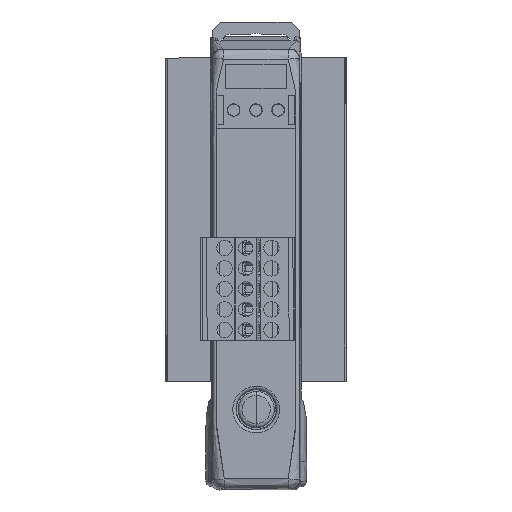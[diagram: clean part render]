
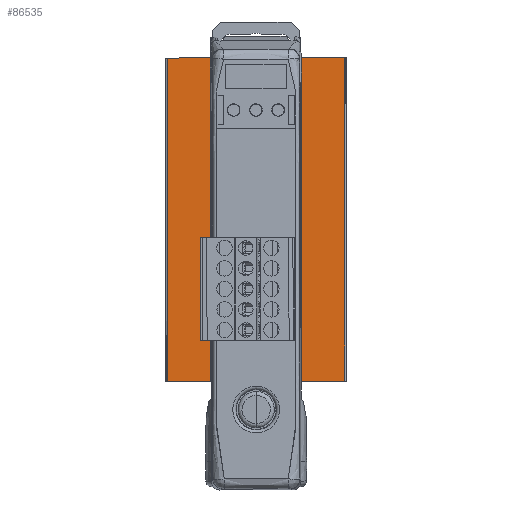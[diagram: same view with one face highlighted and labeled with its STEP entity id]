
A CAD part, top view. The second image highlights one B-rep face of the part: STEP entity #86535.
In plain terms, the highlighted planar face has unit normal (0, 0, 1).
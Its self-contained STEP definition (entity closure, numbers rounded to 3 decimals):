
#79083=CARTESIAN_POINT('',(1.621,-23.8,66.));
#79084=VERTEX_POINT('',#79083);
#79085=CARTESIAN_POINT('',(0.,-23.8,66.));
#79086=DIRECTION('',(0.,0.,-1.0));
#79087=DIRECTION('',(1.0,0.,0.));
#79088=AXIS2_PLACEMENT_3D('',#79085,#79086,#79087);
#79089=CIRCLE('',#79088,1.621);
#79090=EDGE_CURVE('',#79084,#79084,#79089,.T.);
#79162=CARTESIAN_POINT('',(1.621,23.8,66.));
#79163=VERTEX_POINT('',#79162);
#79164=CARTESIAN_POINT('',(0.,23.8,66.));
#79165=DIRECTION('',(0.,0.,-1.0));
#79166=DIRECTION('',(1.0,0.,0.));
#79167=AXIS2_PLACEMENT_3D('',#79164,#79165,#79166);
#79168=CIRCLE('',#79167,1.621);
#79169=EDGE_CURVE('',#79163,#79163,#79168,.T.);
#81589=CARTESIAN_POINT('',(21.95,40.,66.));
#81590=VERTEX_POINT('',#81589);
#81598=CARTESIAN_POINT('',(21.95,-40.,66.));
#81599=VERTEX_POINT('',#81598);
#81600=CARTESIAN_POINT('',(21.95,40.,66.));
#81601=DIRECTION('',(0.0,-1.0,0.0));
#81602=VECTOR('',#81601,80.);
#81603=LINE('',#81600,#81602);
#81604=EDGE_CURVE('',#81590,#81599,#81603,.T.);
#86481=CARTESIAN_POINT('',(-21.95,-40.,66.));
#86482=VERTEX_POINT('',#86481);
#86490=CARTESIAN_POINT('',(-21.95,40.,66.));
#86491=VERTEX_POINT('',#86490);
#86492=CARTESIAN_POINT('',(-21.95,40.,66.));
#86493=DIRECTION('',(0.0,-1.0,0.0));
#86494=VECTOR('',#86493,80.);
#86495=LINE('',#86492,#86494);
#86496=EDGE_CURVE('',#86491,#86482,#86495,.T.);
#86508=CARTESIAN_POINT('',(-24.145,-44.,66.));
#86509=DIRECTION('',(0.,0.,1.0));
#86510=DIRECTION('',(1.0,0.,0.));
#86511=AXIS2_PLACEMENT_3D('',#86508,#86509,#86510);
#86512=PLANE('',#86511);
#86513=CARTESIAN_POINT('',(-21.95,-40.,66.));
#86514=DIRECTION('',(1.0,0.,0.));
#86515=VECTOR('',#86514,43.9);
#86516=LINE('',#86513,#86515);
#86517=EDGE_CURVE('',#86482,#81599,#86516,.T.);
#86518=ORIENTED_EDGE('',*,*,#86517,.T.);
#86519=ORIENTED_EDGE('',*,*,#81604,.F.);
#86520=CARTESIAN_POINT('',(-21.95,40.,66.));
#86521=DIRECTION('',(1.0,0.,0.));
#86522=VECTOR('',#86521,43.9);
#86523=LINE('',#86520,#86522);
#86524=EDGE_CURVE('',#86491,#81590,#86523,.T.);
#86525=ORIENTED_EDGE('',*,*,#86524,.F.);
#86526=ORIENTED_EDGE('',*,*,#86496,.T.);
#86527=EDGE_LOOP('',(#86518,#86519,#86525,#86526));
#86528=FACE_OUTER_BOUND('',#86527,.T.);
#86529=ORIENTED_EDGE('',*,*,#79090,.T.);
#86530=EDGE_LOOP('',(#86529));
#86531=FACE_BOUND('',#86530,.T.);
#86532=ORIENTED_EDGE('',*,*,#79169,.T.);
#86533=EDGE_LOOP('',(#86532));
#86534=FACE_BOUND('',#86533,.T.);
#86535=ADVANCED_FACE('',(#86528,#86531,#86534),#86512,.T.);
